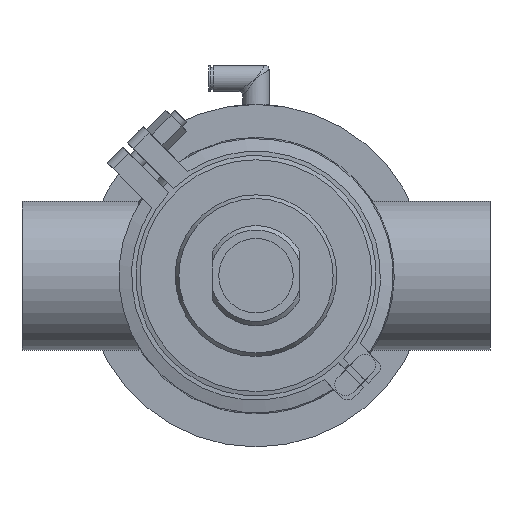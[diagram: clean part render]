
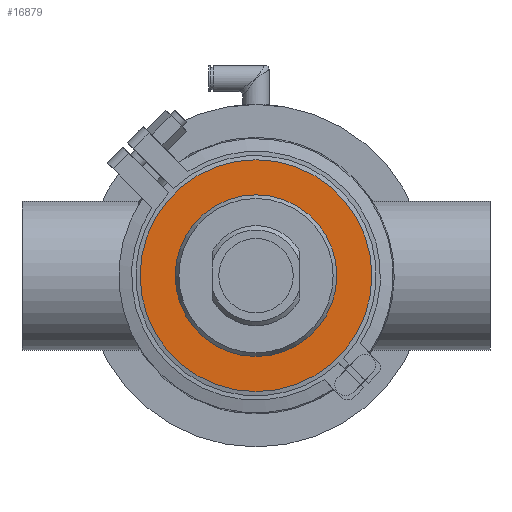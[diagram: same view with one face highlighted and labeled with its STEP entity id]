
A CAD part, front view. The second image highlights one B-rep face of the part: STEP entity #16879.
In plain terms, the highlighted planar face has unit normal (0, -1, 0).
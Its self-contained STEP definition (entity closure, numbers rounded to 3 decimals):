
#438 = ORIENTED_EDGE ( 'NONE', *, *, #19619, .F. ) ;
#1708 = VERTEX_POINT ( 'NONE', #19653 ) ;
#3969 = DIRECTION ( 'NONE',  ( 0., 1., 0. ) ) ;
#5301 = CARTESIAN_POINT ( 'NONE',  ( 0., -13., 38. ) ) ;
#5303 = FACE_OUTER_BOUND ( 'NONE', #18672, .T. ) ;
#5394 = DIRECTION ( 'NONE',  ( 0., 1., 0. ) ) ;
#5410 = DIRECTION ( 'NONE',  ( 0., 0., -1. ) ) ;
#7235 = DIRECTION ( 'NONE',  ( 0., 0., 1. ) ) ;
#8444 = AXIS2_PLACEMENT_3D ( 'NONE', #16077, #5394, #7235 ) ;
#9094 = DIRECTION ( 'NONE',  ( 0., 0., 1. ) ) ;
#9408 = ORIENTED_EDGE ( 'NONE', *, *, #22423, .T. ) ;
#10349 = CIRCLE ( 'NONE', #10735, 38. ) ;
#10628 = VERTEX_POINT ( 'NONE', #5301 ) ;
#10630 = FACE_BOUND ( 'NONE', #17115, .T. ) ;
#10735 = AXIS2_PLACEMENT_3D ( 'NONE', #21680, #3969, #9094 ) ;
#10753 = DIRECTION ( 'NONE',  ( 0., -1., 0. ) ) ;
#10864 = CARTESIAN_POINT ( 'NONE',  ( -54.5, -13., 0. ) ) ;
#16077 = CARTESIAN_POINT ( 'NONE',  ( 0., -13., 0. ) ) ;
#16879 = ADVANCED_FACE ( 'NONE', ( #10630, #5303 ), #22913, .T. ) ;
#16977 = CIRCLE ( 'NONE', #8444, 54.5 ) ;
#17115 = EDGE_LOOP ( 'NONE', ( #9408 ) ) ;
#18672 = EDGE_LOOP ( 'NONE', ( #438 ) ) ;
#19619 = EDGE_CURVE ( 'NONE', #1708, #1708, #16977, .T. ) ;
#19653 = CARTESIAN_POINT ( 'NONE',  ( 0., -13., 54.5 ) ) ;
#20379 = AXIS2_PLACEMENT_3D ( 'NONE', #10864, #10753, #5410 ) ;
#21680 = CARTESIAN_POINT ( 'NONE',  ( 0., -13., 0. ) ) ;
#22423 = EDGE_CURVE ( 'NONE', #10628, #10628, #10349, .T. ) ;
#22913 = PLANE ( 'NONE',  #20379 ) ;
